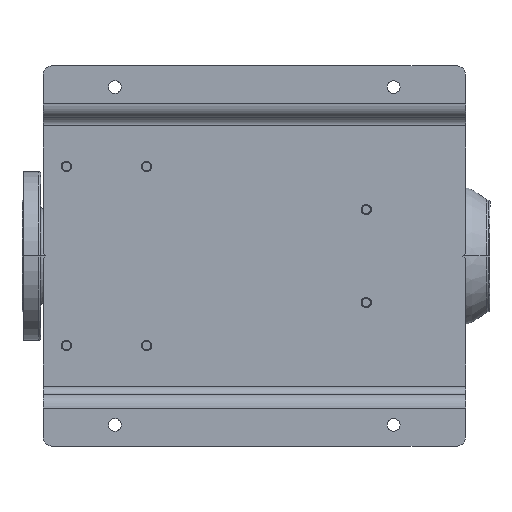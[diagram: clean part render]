
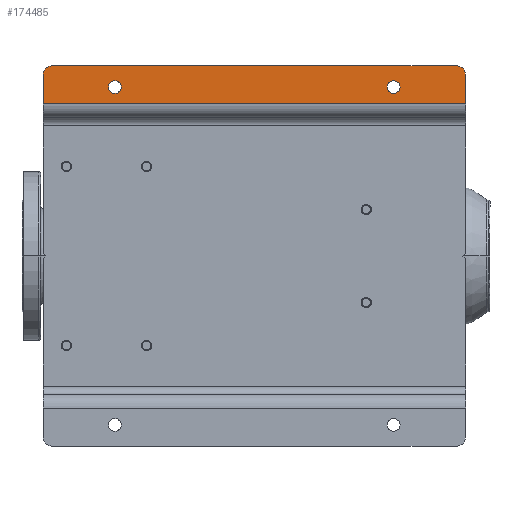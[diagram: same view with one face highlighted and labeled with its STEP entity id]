
A CAD part, front view. The second image highlights one B-rep face of the part: STEP entity #174485.
In plain terms, the highlighted planar face has unit normal (0, -1, 0).
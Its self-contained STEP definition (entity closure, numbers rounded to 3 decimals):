
#1867 = VERTEX_POINT ( 'NONE', #91529 ) ;
#2221 = CARTESIAN_POINT ( 'NONE',  ( 425., 0., -92.5 ) ) ;
#3994 = CIRCLE ( 'NONE', #161367, 10. ) ;
#4425 = CARTESIAN_POINT ( 'NONE',  ( 425., 0., -407.5 ) ) ;
#4502 = DIRECTION ( 'NONE',  ( 0., -1., 0. ) ) ;
#4677 = CARTESIAN_POINT ( 'NONE',  ( 440., 0., -490. ) ) ;
#13131 = DIRECTION ( 'NONE',  ( 0., 0., -1. ) ) ;
#13552 = VERTEX_POINT ( 'NONE', #18042 ) ;
#16880 = LINE ( 'NONE', #161005, #19620 ) ;
#17734 = DIRECTION ( 'NONE',  ( 0., 0., -1. ) ) ;
#18042 = CARTESIAN_POINT ( 'NONE',  ( 440., 0., -500. ) ) ;
#19620 = VECTOR ( 'NONE', #20661, 1000. ) ;
#20579 = DIRECTION ( 'NONE',  ( 0., 0., -1. ) ) ;
#20661 = DIRECTION ( 'NONE',  ( 0., 0., -1. ) ) ;
#21729 = AXIS2_PLACEMENT_3D ( 'NONE', #160977, #129695, #13131 ) ;
#22196 = ORIENTED_EDGE ( 'NONE', *, *, #133741, .T. ) ;
#29439 = EDGE_CURVE ( 'NONE', #154592, #13552, #146656, .T. ) ;
#29687 = CARTESIAN_POINT ( 'NONE',  ( 405., 0., -500. ) ) ;
#37500 = DIRECTION ( 'NONE',  ( 0., 1., 0. ) ) ;
#38774 = EDGE_CURVE ( 'NONE', #59147, #39136, #118944, .T. ) ;
#39136 = VERTEX_POINT ( 'NONE', #4425 ) ;
#42243 = VERTEX_POINT ( 'NONE', #86141 ) ;
#42440 = EDGE_CURVE ( 'NONE', #1867, #154592, #16880, .T. ) ;
#47143 = CARTESIAN_POINT ( 'NONE',  ( 425., 0., -415. ) ) ;
#49954 = DIRECTION ( 'NONE',  ( 0., 1., 0. ) ) ;
#57650 = FACE_OUTER_BOUND ( 'NONE', #113503, .T. ) ;
#58420 = AXIS2_PLACEMENT_3D ( 'NONE', #169445, #185541, #83164 ) ;
#59147 = VERTEX_POINT ( 'NONE', #109143 ) ;
#64188 = CARTESIAN_POINT ( 'NONE',  ( 440., 0., -10. ) ) ;
#67778 = DIRECTION ( 'NONE',  ( 0., 0., -1. ) ) ;
#74032 = AXIS2_PLACEMENT_3D ( 'NONE', #104871, #37500, #67778 ) ;
#74178 = CARTESIAN_POINT ( 'NONE',  ( 389., 0., 0. ) ) ;
#75502 = DIRECTION ( 'NONE',  ( 0., 0., 1. ) ) ;
#78370 = AXIS2_PLACEMENT_3D ( 'NONE', #47143, #49954, #17734 ) ;
#83164 = DIRECTION ( 'NONE',  ( 0., 0., -1. ) ) ;
#83282 = VERTEX_POINT ( 'NONE', #2221 ) ;
#83464 = ORIENTED_EDGE ( 'NONE', *, *, #147690, .T. ) ;
#86141 = CARTESIAN_POINT ( 'NONE',  ( 450., 0., -490. ) ) ;
#88407 = LINE ( 'NONE', #74178, #161619 ) ;
#90670 = ORIENTED_EDGE ( 'NONE', *, *, #183547, .T. ) ;
#90831 = ORIENTED_EDGE ( 'NONE', *, *, #29439, .T. ) ;
#91529 = CARTESIAN_POINT ( 'NONE',  ( 405., 0., 0. ) ) ;
#97291 = VERTEX_POINT ( 'NONE', #115284 ) ;
#100240 = VERTEX_POINT ( 'NONE', #179557 ) ;
#102993 = CARTESIAN_POINT ( 'NONE',  ( 450., 0., -500. ) ) ;
#103121 = PLANE ( 'NONE',  #21729 ) ;
#103561 = DIRECTION ( 'NONE',  ( 1., 0., 0. ) ) ;
#104871 = CARTESIAN_POINT ( 'NONE',  ( 425., 0., -85. ) ) ;
#104968 = VECTOR ( 'NONE', #75502, 1000. ) ;
#105972 = ORIENTED_EDGE ( 'NONE', *, *, #42440, .T. ) ;
#107943 = DIRECTION ( 'NONE',  ( 0., -1., 0. ) ) ;
#108718 = DIRECTION ( 'NONE',  ( 0., 1., 0. ) ) ;
#108784 = AXIS2_PLACEMENT_3D ( 'NONE', #179879, #108718, #122045 ) ;
#109143 = CARTESIAN_POINT ( 'NONE',  ( 425., 0., -422.5 ) ) ;
#113503 = EDGE_LOOP ( 'NONE', ( #169994, #105972, #90831, #90670, #83464, #160877 ) ) ;
#113888 = CIRCLE ( 'NONE', #138152, 10. ) ;
#115284 = CARTESIAN_POINT ( 'NONE',  ( 450., 0., -10. ) ) ;
#115388 = CARTESIAN_POINT ( 'NONE',  ( 389., 0., -500. ) ) ;
#117289 = ORIENTED_EDGE ( 'NONE', *, *, #134600, .T. ) ;
#118944 = CIRCLE ( 'NONE', #58420, 7.5 ) ;
#120385 = EDGE_CURVE ( 'NONE', #1867, #100240, #88407, .T. ) ;
#122045 = DIRECTION ( 'NONE',  ( 0., 0., -1. ) ) ;
#128370 = CARTESIAN_POINT ( 'NONE',  ( 425., 0., -77.5 ) ) ;
#128691 = VERTEX_POINT ( 'NONE', #128370 ) ;
#129695 = DIRECTION ( 'NONE',  ( 0., -1., 0. ) ) ;
#133326 = LINE ( 'NONE', #102993, #104968 ) ;
#133741 = EDGE_CURVE ( 'NONE', #39136, #59147, #172226, .T. ) ;
#134600 = EDGE_CURVE ( 'NONE', #83282, #128691, #166322, .T. ) ;
#138152 = AXIS2_PLACEMENT_3D ( 'NONE', #4677, #107943, #178137 ) ;
#139275 = FACE_BOUND ( 'NONE', #141736, .T. ) ;
#141736 = EDGE_LOOP ( 'NONE', ( #143206, #117289 ) ) ;
#143206 = ORIENTED_EDGE ( 'NONE', *, *, #182762, .T. ) ;
#146656 = LINE ( 'NONE', #115388, #150638 ) ;
#147690 = EDGE_CURVE ( 'NONE', #42243, #97291, #133326, .T. ) ;
#150638 = VECTOR ( 'NONE', #159017, 1000. ) ;
#154592 = VERTEX_POINT ( 'NONE', #29687 ) ;
#159017 = DIRECTION ( 'NONE',  ( 1., 0., 0. ) ) ;
#160877 = ORIENTED_EDGE ( 'NONE', *, *, #161349, .T. ) ;
#160977 = CARTESIAN_POINT ( 'NONE',  ( 389., 0., -500. ) ) ;
#161005 = CARTESIAN_POINT ( 'NONE',  ( 405., 0., -500. ) ) ;
#161349 = EDGE_CURVE ( 'NONE', #97291, #100240, #3994, .T. ) ;
#161367 = AXIS2_PLACEMENT_3D ( 'NONE', #64188, #4502, #20579 ) ;
#161619 = VECTOR ( 'NONE', #103561, 1000. ) ;
#166322 = CIRCLE ( 'NONE', #108784, 7.5 ) ;
#169445 = CARTESIAN_POINT ( 'NONE',  ( 425., 0., -415. ) ) ;
#169994 = ORIENTED_EDGE ( 'NONE', *, *, #120385, .F. ) ;
#171453 = FACE_BOUND ( 'NONE', #173726, .T. ) ;
#172226 = CIRCLE ( 'NONE', #78370, 7.5 ) ;
#173726 = EDGE_LOOP ( 'NONE', ( #22196, #181212 ) ) ;
#173933 = CIRCLE ( 'NONE', #74032, 7.5 ) ;
#174485 = ADVANCED_FACE ( 'NONE', ( #139275, #171453, #57650 ), #103121, .T. ) ;
#178137 = DIRECTION ( 'NONE',  ( 0., 0., -1. ) ) ;
#179557 = CARTESIAN_POINT ( 'NONE',  ( 440., 0., 0. ) ) ;
#179879 = CARTESIAN_POINT ( 'NONE',  ( 425., 0., -85. ) ) ;
#181212 = ORIENTED_EDGE ( 'NONE', *, *, #38774, .T. ) ;
#182762 = EDGE_CURVE ( 'NONE', #128691, #83282, #173933, .T. ) ;
#183547 = EDGE_CURVE ( 'NONE', #13552, #42243, #113888, .T. ) ;
#185541 = DIRECTION ( 'NONE',  ( 0., 1., 0. ) ) ;
